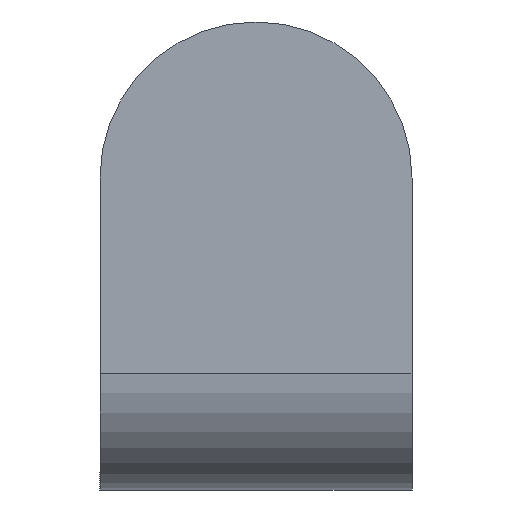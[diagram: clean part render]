
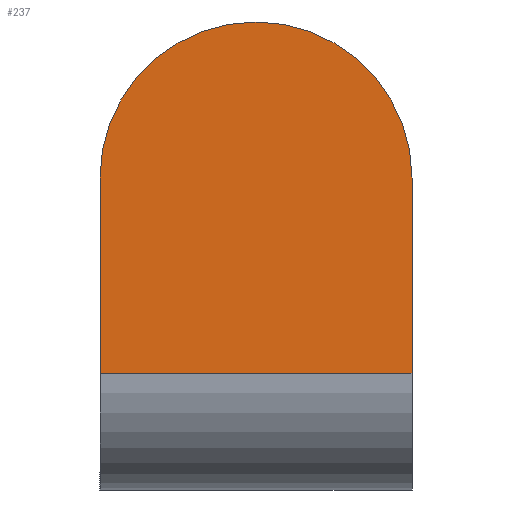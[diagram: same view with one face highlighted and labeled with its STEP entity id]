
A CAD part, left-side view. The second image highlights one B-rep face of the part: STEP entity #237.
In plain terms, the highlighted planar face has unit normal (-1, 0, 0).
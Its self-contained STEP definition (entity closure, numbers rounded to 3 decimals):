
#23 = CARTESIAN_POINT ( 'NONE',  ( 0., 40., 35. ) ) ;
#36 = EDGE_CURVE ( 'NONE', #129, #330, #411, .T. ) ;
#56 = CARTESIAN_POINT ( 'NONE',  ( 0., 40., 10. ) ) ;
#84 = LINE ( 'NONE', #56, #118 ) ;
#87 = DIRECTION ( 'NONE',  ( -1., 0., 0. ) ) ;
#101 = CARTESIAN_POINT ( 'NONE',  ( 0., 0., 35. ) ) ;
#104 = VECTOR ( 'NONE', #344, 1000. ) ;
#118 = VECTOR ( 'NONE', #328, 1000. ) ;
#125 = ORIENTED_EDGE ( 'NONE', *, *, #130, .T. ) ;
#128 = DIRECTION ( 'NONE',  ( 1., 0., 0. ) ) ;
#129 = VERTEX_POINT ( 'NONE', #295 ) ;
#130 = EDGE_CURVE ( 'NONE', #330, #166, #421, .T. ) ;
#141 = EDGE_LOOP ( 'NONE', ( #359, #125, #144, #399 ) ) ;
#144 = ORIENTED_EDGE ( 'NONE', *, *, #371, .T. ) ;
#146 = DIRECTION ( 'NONE',  ( 0., 0., 1. ) ) ;
#162 = EDGE_CURVE ( 'NONE', #129, #309, #84, .T. ) ;
#166 = VERTEX_POINT ( 'NONE', #23 ) ;
#186 = DIRECTION ( 'NONE',  ( 0., 0., -1. ) ) ;
#237 = ADVANCED_FACE ( 'NONE', ( #370 ), #428, .F. ) ;
#250 = LINE ( 'NONE', #405, #104 ) ;
#259 = CARTESIAN_POINT ( 'NONE',  ( 0., 20., 35. ) ) ;
#285 = VECTOR ( 'NONE', #146, 1000. ) ;
#295 = CARTESIAN_POINT ( 'NONE',  ( 0., 0., 10. ) ) ;
#306 = CARTESIAN_POINT ( 'NONE',  ( 0., 40., 10. ) ) ;
#309 = VERTEX_POINT ( 'NONE', #306 ) ;
#314 = AXIS2_PLACEMENT_3D ( 'NONE', #259, #87, #186 ) ;
#328 = DIRECTION ( 'NONE',  ( 0., 1., 0. ) ) ;
#330 = VERTEX_POINT ( 'NONE', #101 ) ;
#343 = CARTESIAN_POINT ( 'NONE',  ( 0., 0., 0. ) ) ;
#344 = DIRECTION ( 'NONE',  ( 0., 0., -1. ) ) ;
#359 = ORIENTED_EDGE ( 'NONE', *, *, #36, .T. ) ;
#363 = DIRECTION ( 'NONE',  ( 0., 0., -1. ) ) ;
#370 = FACE_OUTER_BOUND ( 'NONE', #141, .T. ) ;
#371 = EDGE_CURVE ( 'NONE', #166, #309, #250, .T. ) ;
#375 = AXIS2_PLACEMENT_3D ( 'NONE', #435, #128, #363 ) ;
#399 = ORIENTED_EDGE ( 'NONE', *, *, #162, .F. ) ;
#405 = CARTESIAN_POINT ( 'NONE',  ( 0., 40., 0. ) ) ;
#411 = LINE ( 'NONE', #343, #285 ) ;
#421 = CIRCLE ( 'NONE', #314, 20. ) ;
#428 = PLANE ( 'NONE',  #375 ) ;
#435 = CARTESIAN_POINT ( 'NONE',  ( 0., 0., 0. ) ) ;
